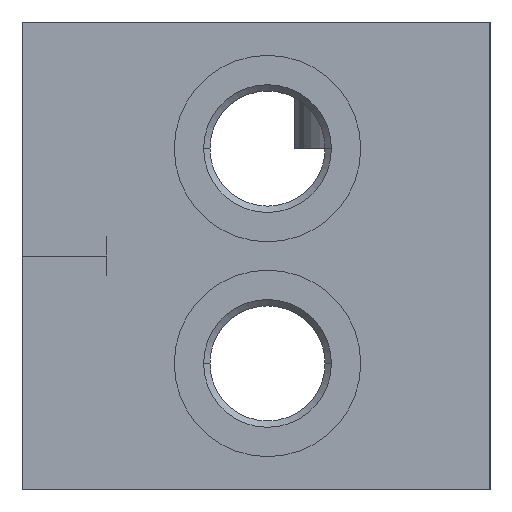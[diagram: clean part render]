
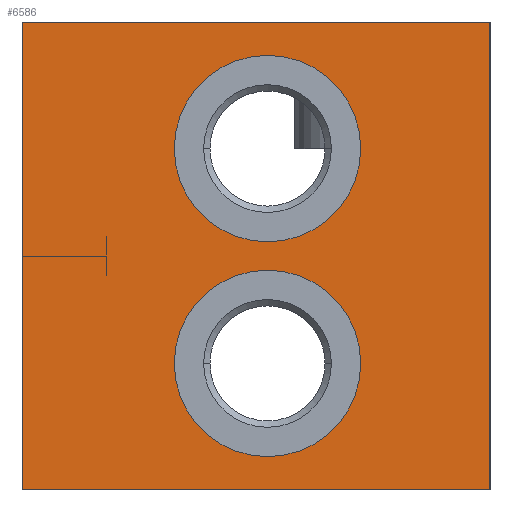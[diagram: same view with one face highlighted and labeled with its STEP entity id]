
A CAD part, left-side view. The second image highlights one B-rep face of the part: STEP entity #6586.
In plain terms, the highlighted planar face has unit normal (-1, 0, 0).
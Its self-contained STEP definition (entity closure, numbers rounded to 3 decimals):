
#25=DIRECTION('',(0.,-1.,0.));
#26=VECTOR('',#25,61.);
#27=CARTESIAN_POINT('',(0.,61.,0.));
#28=LINE('',#27,#26);
#177=DIRECTION('',(0.,0.,-1.));
#178=VECTOR('',#177,61.);
#179=CARTESIAN_POINT('',(0.,0.,0.));
#180=LINE('',#179,#178);
#1247=DIRECTION('',(0.,0.,-1.));
#1248=VECTOR('',#1247,61.);
#1249=CARTESIAN_POINT('',(0.,61.,0.));
#1250=LINE('',#1249,#1248);
#1251=CARTESIAN_POINT('',(0.,29.,-44.5));
#1252=DIRECTION('',(1.,0.,0.));
#1253=DIRECTION('',(0.,-1.,0.));
#1254=AXIS2_PLACEMENT_3D('',#1251,#1252,#1253);
#1256=CARTESIAN_POINT('',(0.,29.,-44.5));
#1257=DIRECTION('',(1.,0.,0.));
#1258=DIRECTION('',(0.,1.,0.));
#1259=AXIS2_PLACEMENT_3D('',#1256,#1257,#1258);
#1261=CARTESIAN_POINT('',(0.,29.,-16.5));
#1262=DIRECTION('',(1.,0.,0.));
#1263=DIRECTION('',(0.,-1.,0.));
#1264=AXIS2_PLACEMENT_3D('',#1261,#1262,#1263);
#1266=CARTESIAN_POINT('',(0.,29.,-16.5));
#1267=DIRECTION('',(1.,0.,0.));
#1268=DIRECTION('',(0.,1.,0.));
#1269=AXIS2_PLACEMENT_3D('',#1266,#1267,#1268);
#1283=DIRECTION('',(0.,-1.,0.));
#1284=VECTOR('',#1283,61.);
#1285=CARTESIAN_POINT('',(0.,61.,-61.));
#1286=LINE('',#1285,#1284);
#5083=CARTESIAN_POINT('',(0.,0.,0.));
#5085=VERTEX_POINT('',#5083);
#5089=CARTESIAN_POINT('',(0.,61.,0.));
#5090=VERTEX_POINT('',#5089);
#5091=CARTESIAN_POINT('',(0.,0.,-61.));
#5093=VERTEX_POINT('',#5091);
#5097=CARTESIAN_POINT('',(0.,61.,-61.));
#5098=VERTEX_POINT('',#5097);
#5111=CARTESIAN_POINT('',(0.,16.85,-44.5));
#5112=CARTESIAN_POINT('',(0.,41.15,-44.5));
#5113=VERTEX_POINT('',#5111);
#5114=VERTEX_POINT('',#5112);
#5127=CARTESIAN_POINT('',(0.,16.85,-16.5));
#5128=CARTESIAN_POINT('',(0.,41.15,-16.5));
#5129=VERTEX_POINT('',#5127);
#5130=VERTEX_POINT('',#5128);
#6562=CARTESIAN_POINT('',(0.,61.,0.));
#6563=DIRECTION('',(-1.,0.,0.));
#6564=DIRECTION('',(0.,-1.,0.));
#6565=AXIS2_PLACEMENT_3D('',#6562,#6563,#6564);
#6566=PLANE('',#6565);
#6567=ORIENTED_EDGE('',*,*,#6072,.T.);
#6568=ORIENTED_EDGE('',*,*,#6175,.T.);
#6570=ORIENTED_EDGE('',*,*,#6569,.F.);
#6571=ORIENTED_EDGE('',*,*,#6254,.F.);
#6572=EDGE_LOOP('',(#6567,#6568,#6570,#6571));
#6573=FACE_OUTER_BOUND('',#6572,.F.);
#6575=ORIENTED_EDGE('',*,*,#6574,.F.);
#6577=ORIENTED_EDGE('',*,*,#6576,.F.);
#6578=EDGE_LOOP('',(#6575,#6577));
#6579=FACE_BOUND('',#6578,.F.);
#6581=ORIENTED_EDGE('',*,*,#6580,.F.);
#6583=ORIENTED_EDGE('',*,*,#6582,.F.);
#6584=EDGE_LOOP('',(#6581,#6583));
#6585=FACE_BOUND('',#6584,.F.);
#1255=CIRCLE('',#1254,12.15);
#1260=CIRCLE('',#1259,12.15);
#1265=CIRCLE('',#1264,12.15);
#1270=CIRCLE('',#1269,12.15);
#6072=EDGE_CURVE('',#5090,#5085,#28,.T.);
#6175=EDGE_CURVE('',#5085,#5093,#180,.T.);
#6254=EDGE_CURVE('',#5090,#5098,#1250,.T.);
#6569=EDGE_CURVE('',#5098,#5093,#1286,.T.);
#6574=EDGE_CURVE('',#5113,#5114,#1255,.T.);
#6576=EDGE_CURVE('',#5114,#5113,#1260,.T.);
#6580=EDGE_CURVE('',#5129,#5130,#1265,.T.);
#6582=EDGE_CURVE('',#5130,#5129,#1270,.T.);
#6586=ADVANCED_FACE('',(#6573,#6579,#6585),#6566,.T.);
